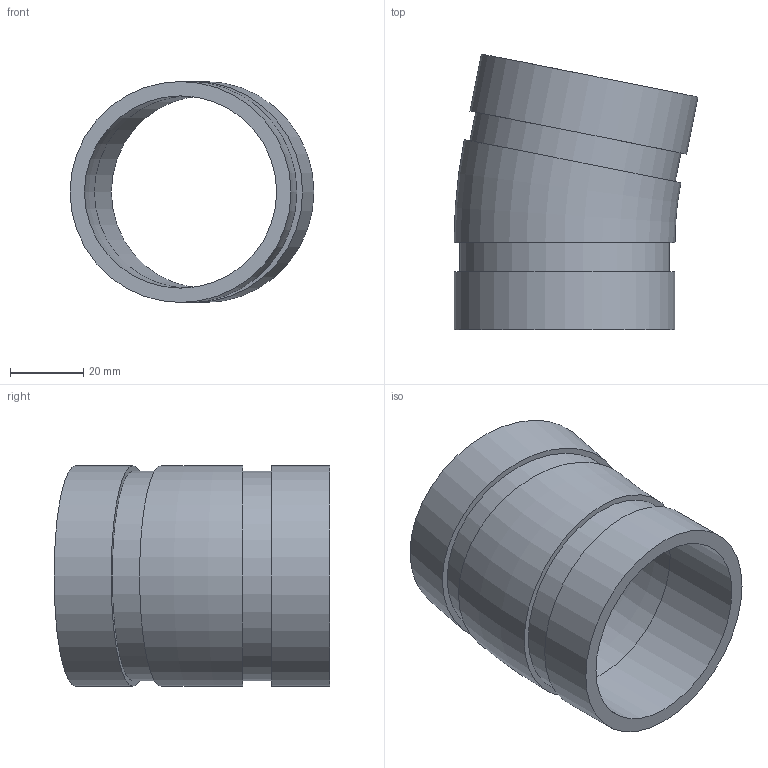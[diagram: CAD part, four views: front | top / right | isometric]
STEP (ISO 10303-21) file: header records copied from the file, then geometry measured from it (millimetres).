
FILE_DESCRIPTION(/* description */ ('VIC 11-1/4 DEG. ELBOW No 13','CAx-IF Rec.Pracs.---Representation and Presentation of Product Manufacturing Information (PMI)---4.0---2014-10-13'),/* implementation_level */ '2;1');
FILE_NAME(/* name */ 'C:\Users\kkamble\AppData\Roaming\Autodesk\ApplicationPlugins\Back Up\Victaulic_IPS_Elbow 11.25 Deg_No 13 (OGS)\Victaulic_IPS_Elbow 11.25 Deg_No 13 (OGS)_2 (50).stp',/* time_stamp */ '2020-07-24T08:08:52+06:00',/* author */ ('CONSTRUCTION PIPING SERVICES'),/* organization */ ('Victaulic'),/* preprocessor_version */ 'ST-DEVELOPER v17.2',/* originating_system */ 'Autodesk Inventor 2019',/* authorisation */ '');
FILE_SCHEMA (('AP242_MANAGED_MODEL_BASED_3D_ENGINEERING_MIM_LF { 1 0 10303 442 1 1 4 }'));
Length unit declared in the file: inch
Products named in the file (1): 013-02.0
Bounding box: 66.58 x 75.31 x 60.33 mm (x, y, z)
Volume: 43891.3 mm3; surface area: 27222.8 mm2
Topology: 1 solids, 1 shells, 14 faces, 32 edges, 24 vertices
Faces by surface type: plane 6, cylinder 6, torus 2
Full cylindrical faces by diameter (mm): 52.502 x2, 57.15 x2, 60.325 x2
Entity records: 487 total; most frequent: DIRECTION 88, CARTESIAN_POINT 71, ORIENTED_EDGE 64, AXIS2_PLACEMENT_3D 41, EDGE_CURVE 32, CIRCLE 26, VERTEX_POINT 24, EDGE_LOOP 20
